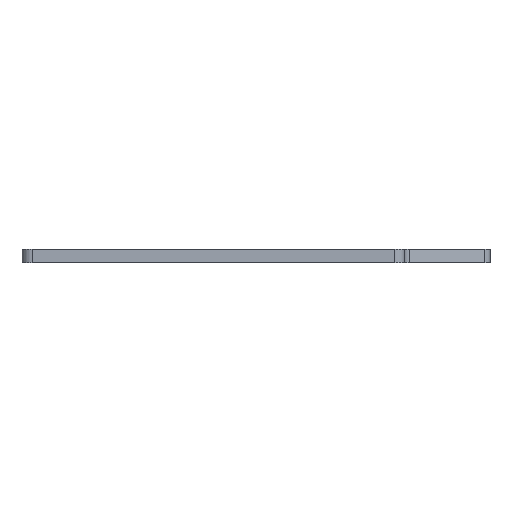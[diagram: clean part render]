
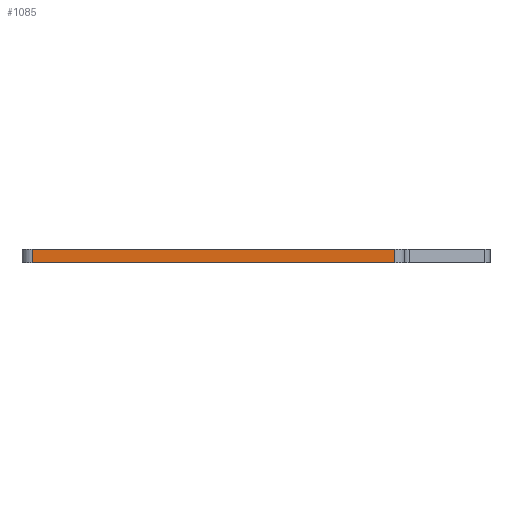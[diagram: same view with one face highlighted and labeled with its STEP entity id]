
A CAD part, left-side view. The second image highlights one B-rep face of the part: STEP entity #1085.
In plain terms, the highlighted planar face has unit normal (-1, 0, 0).
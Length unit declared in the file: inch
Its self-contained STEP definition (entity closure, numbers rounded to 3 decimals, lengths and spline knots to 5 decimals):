
#89=DIRECTION('',(0.,-1.,0.));
#90=VECTOR('',#89,4.23378);
#91=CARTESIAN_POINT('',(-4.285,1.61689,0.));
#92=LINE('',#91,#90);
#207=DIRECTION('',(0.,0.,1.));
#208=VECTOR('',#207,0.15748);
#209=CARTESIAN_POINT('',(-4.285,1.61689,-0.15748));
#210=LINE('',#209,#208);
#211=DIRECTION('',(0.,0.,1.));
#212=VECTOR('',#211,0.15748);
#213=CARTESIAN_POINT('',(-4.285,-2.61689,-0.15748));
#214=LINE('',#213,#212);
#352=DIRECTION('',(0.,-1.,0.));
#353=VECTOR('',#352,4.23378);
#354=CARTESIAN_POINT('',(-4.285,1.61689,-0.15748));
#355=LINE('',#354,#353);
#754=CARTESIAN_POINT('',(-4.285,1.61689,0.));
#756=VERTEX_POINT('',#754);
#757=CARTESIAN_POINT('',(-4.285,1.61689,-0.15748));
#758=VERTEX_POINT('',#757);
#885=CARTESIAN_POINT('',(-4.285,-2.61689,0.));
#887=VERTEX_POINT('',#885);
#891=CARTESIAN_POINT('',(-4.285,-2.61689,-0.15748));
#892=VERTEX_POINT('',#891);
#1072=CARTESIAN_POINT('',(-4.285,-1.,-0.07874));
#1073=DIRECTION('',(-1.,0.,0.));
#1074=DIRECTION('',(0.,-1.,0.));
#1075=AXIS2_PLACEMENT_3D('',#1072,#1073,#1074);
#1076=PLANE('',#1075);
#1077=ORIENTED_EDGE('',*,*,#1063,.T.);
#1078=ORIENTED_EDGE('',*,*,#986,.T.);
#1080=ORIENTED_EDGE('',*,*,#1079,.F.);
#1082=ORIENTED_EDGE('',*,*,#1081,.F.);
#1083=EDGE_LOOP('',(#1077,#1078,#1080,#1082));
#1084=FACE_OUTER_BOUND('',#1083,.F.);
#1085=ADVANCED_FACE('',(#1084),#1076,.T.);
#986=EDGE_CURVE('',#756,#887,#92,.T.);
#1063=EDGE_CURVE('',#758,#756,#210,.T.);
#1079=EDGE_CURVE('',#892,#887,#214,.T.);
#1081=EDGE_CURVE('',#758,#892,#355,.T.);
